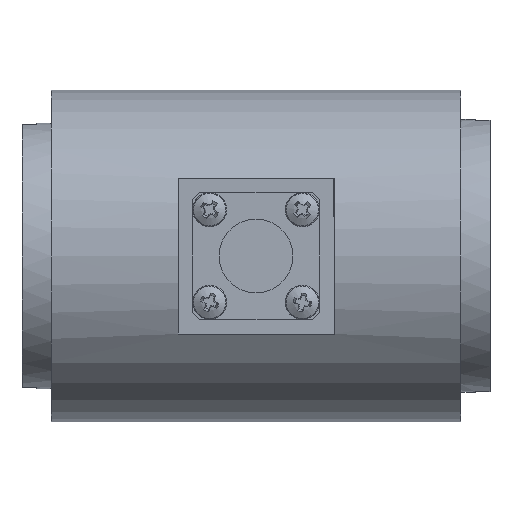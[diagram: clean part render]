
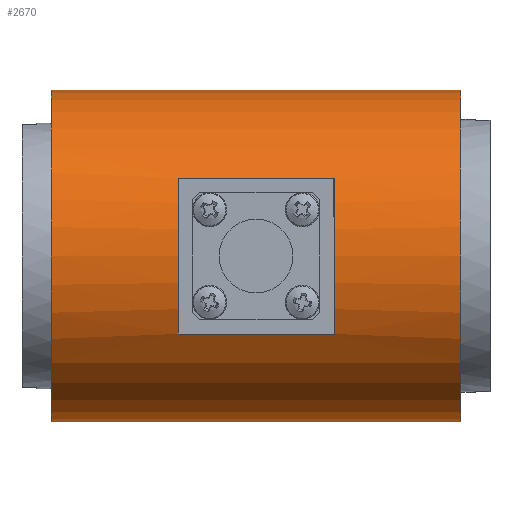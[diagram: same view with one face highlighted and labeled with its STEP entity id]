
A CAD part, front view. The second image highlights one B-rep face of the part: STEP entity #2670.
In plain terms, the highlighted cylindrical face has radius 26.988 mm (diameter 53.975 mm), a partial arc.
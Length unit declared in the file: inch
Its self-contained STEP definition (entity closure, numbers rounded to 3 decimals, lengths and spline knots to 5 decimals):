
#12 = CARTESIAN_POINT ( 'NONE',  ( 0.1875, -0.9375, -0.5 ) ) ;
#284 = LINE ( 'NONE', #5131, #3168 ) ;
#331 = ORIENTED_EDGE ( 'NONE', *, *, #3714, .T. ) ;
#346 = VERTEX_POINT ( 'NONE', #4045 ) ;
#430 = VERTEX_POINT ( 'NONE', #1562 ) ;
#444 = CARTESIAN_POINT ( 'NONE',  ( 0.1875, 0., -1.0625 ) ) ;
#767 = DIRECTION ( 'NONE',  ( 1., 0., 0. ) ) ;
#772 = ORIENTED_EDGE ( 'NONE', *, *, #1039, .T. ) ;
#828 = CARTESIAN_POINT ( 'NONE',  ( 2., 0., 0. ) ) ;
#1017 = VERTEX_POINT ( 'NONE', #8339 ) ;
#1039 = EDGE_CURVE ( 'NONE', #8105, #2003, #2301, .T. ) ;
#1500 = DIRECTION ( 'NONE',  ( 0., 0., -1. ) ) ;
#1562 = CARTESIAN_POINT ( 'NONE',  ( 2., -0.9375, 0.5 ) ) ;
#1871 = AXIS2_PLACEMENT_3D ( 'NONE', #7116, #4553, #6456 ) ;
#2003 = VERTEX_POINT ( 'NONE', #4931 ) ;
#2153 = DIRECTION ( 'NONE',  ( 1., 0., 0. ) ) ;
#2185 = VECTOR ( 'NONE', #5629, 39.37008 ) ;
#2237 = VECTOR ( 'NONE', #7927, 39.37008 ) ;
#2301 = CIRCLE ( 'NONE', #7306, 1.0625 ) ;
#2397 = CARTESIAN_POINT ( 'NONE',  ( 0.1875, 0., -1.0625 ) ) ;
#2645 = FACE_BOUND ( 'NONE', #6062, .T. ) ;
#2663 = ORIENTED_EDGE ( 'NONE', *, *, #5594, .F. ) ;
#2670 = ADVANCED_FACE ( 'NONE', ( #7217, #2645 ), #4991, .T. ) ;
#2728 = AXIS2_PLACEMENT_3D ( 'NONE', #8115, #7403, #3562 ) ;
#2868 = VECTOR ( 'NONE', #7480, 39.37008 ) ;
#3042 = DIRECTION ( 'NONE',  ( -1., 0., 0. ) ) ;
#3168 = VECTOR ( 'NONE', #6379, 39.37008 ) ;
#3538 = EDGE_CURVE ( 'NONE', #1017, #3610, #3838, .T. ) ;
#3562 = DIRECTION ( 'NONE',  ( 0., 0., -1. ) ) ;
#3610 = VERTEX_POINT ( 'NONE', #3926 ) ;
#3714 = EDGE_CURVE ( 'NONE', #430, #346, #5484, .T. ) ;
#3753 = LINE ( 'NONE', #12, #2237 ) ;
#3838 = CIRCLE ( 'NONE', #1871, 1.0625 ) ;
#3898 = CARTESIAN_POINT ( 'NONE',  ( 0.1875, 0., 1.0625 ) ) ;
#3926 = CARTESIAN_POINT ( 'NONE',  ( 1., -0.9375, 0.5 ) ) ;
#4001 = CARTESIAN_POINT ( 'NONE',  ( 2.8125, 0., -1.0625 ) ) ;
#4045 = CARTESIAN_POINT ( 'NONE',  ( 2., -0.9375, -0.5 ) ) ;
#4173 = ORIENTED_EDGE ( 'NONE', *, *, #6984, .T. ) ;
#4295 = VERTEX_POINT ( 'NONE', #2397 ) ;
#4302 = CARTESIAN_POINT ( 'NONE',  ( 0.1875, 0., 1.0625 ) ) ;
#4376 = DIRECTION ( 'NONE',  ( 0., 0., -1. ) ) ;
#4435 = EDGE_CURVE ( 'NONE', #3610, #430, #284, .T. ) ;
#4553 = DIRECTION ( 'NONE',  ( -1., 0., 0. ) ) ;
#4575 = CARTESIAN_POINT ( 'NONE',  ( 0.1875, 0., 0. ) ) ;
#4713 = LINE ( 'NONE', #444, #2185 ) ;
#4801 = LINE ( 'NONE', #4302, #2868 ) ;
#4811 = DIRECTION ( 'NONE',  ( 0., 0., -1. ) ) ;
#4822 = CIRCLE ( 'NONE', #2728, 1.0625 ) ;
#4823 = ORIENTED_EDGE ( 'NONE', *, *, #8200, .T. ) ;
#4931 = CARTESIAN_POINT ( 'NONE',  ( 2.8125, 0., 1.0625 ) ) ;
#4991 = CYLINDRICAL_SURFACE ( 'NONE', #7749, 1.0625 ) ;
#5131 = CARTESIAN_POINT ( 'NONE',  ( 0.1875, -0.9375, 0.5 ) ) ;
#5484 = CIRCLE ( 'NONE', #7117, 1.0625 ) ;
#5594 = EDGE_CURVE ( 'NONE', #7441, #2003, #4801, .T. ) ;
#5629 = DIRECTION ( 'NONE',  ( 1., 0., 0. ) ) ;
#6062 = EDGE_LOOP ( 'NONE', ( #7483, #6565, #331, #4173 ) ) ;
#6360 = ORIENTED_EDGE ( 'NONE', *, *, #8363, .T. ) ;
#6379 = DIRECTION ( 'NONE',  ( 1., 0., 0. ) ) ;
#6456 = DIRECTION ( 'NONE',  ( 0., 0., -1. ) ) ;
#6565 = ORIENTED_EDGE ( 'NONE', *, *, #4435, .T. ) ;
#6954 = CARTESIAN_POINT ( 'NONE',  ( 2.8125, 0., 0. ) ) ;
#6964 = EDGE_LOOP ( 'NONE', ( #2663, #4823, #6360, #772 ) ) ;
#6984 = EDGE_CURVE ( 'NONE', #346, #1017, #3753, .T. ) ;
#7116 = CARTESIAN_POINT ( 'NONE',  ( 1., 0., 0. ) ) ;
#7117 = AXIS2_PLACEMENT_3D ( 'NONE', #828, #2153, #1500 ) ;
#7217 = FACE_OUTER_BOUND ( 'NONE', #6964, .T. ) ;
#7306 = AXIS2_PLACEMENT_3D ( 'NONE', #6954, #3042, #4376 ) ;
#7403 = DIRECTION ( 'NONE',  ( 1., 0., 0. ) ) ;
#7441 = VERTEX_POINT ( 'NONE', #3898 ) ;
#7480 = DIRECTION ( 'NONE',  ( 1., 0., 0. ) ) ;
#7483 = ORIENTED_EDGE ( 'NONE', *, *, #3538, .T. ) ;
#7749 = AXIS2_PLACEMENT_3D ( 'NONE', #4575, #767, #4811 ) ;
#7927 = DIRECTION ( 'NONE',  ( -1., 0., 0. ) ) ;
#8105 = VERTEX_POINT ( 'NONE', #4001 ) ;
#8115 = CARTESIAN_POINT ( 'NONE',  ( 0.1875, 0., 0. ) ) ;
#8200 = EDGE_CURVE ( 'NONE', #7441, #4295, #4822, .T. ) ;
#8339 = CARTESIAN_POINT ( 'NONE',  ( 1., -0.9375, -0.5 ) ) ;
#8363 = EDGE_CURVE ( 'NONE', #4295, #8105, #4713, .T. ) ;
